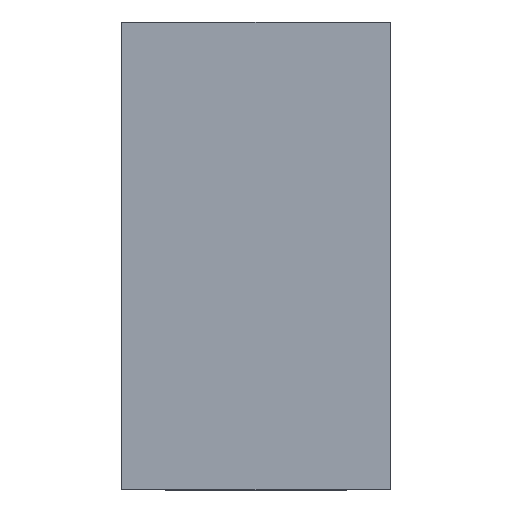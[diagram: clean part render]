
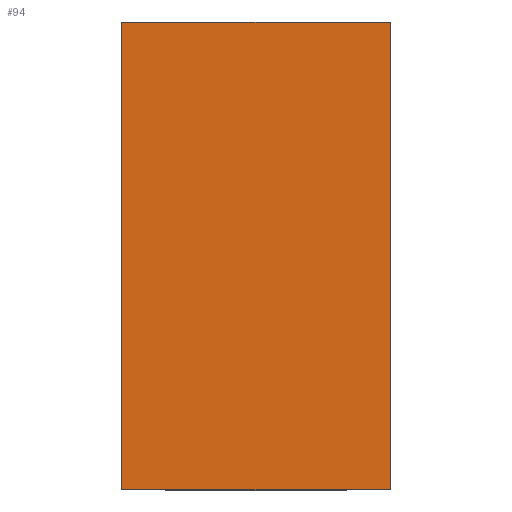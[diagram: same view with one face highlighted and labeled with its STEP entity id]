
A CAD part, top view. The second image highlights one B-rep face of the part: STEP entity #94.
In plain terms, the highlighted planar face has unit normal (0, 0, 1).
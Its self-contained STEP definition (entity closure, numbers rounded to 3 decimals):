
#55=CARTESIAN_POINT('',(0.,634.3,27.85));
#56=DIRECTION('',(0.,0.,1.));
#57=DIRECTION('',(1.,0.,0.));
#58=AXIS2_PLACEMENT_3D('',#55,#56,#57);
#59=PLANE('',#58);
#60=CARTESIAN_POINT('',(7.03,609.8,27.85));
#61=VERTEX_POINT('',#60);
#62=CARTESIAN_POINT('',(-7.03,609.8,27.85));
#63=VERTEX_POINT('',#62);
#64=CARTESIAN_POINT('',(7.03,609.8,27.85));
#65=DIRECTION('',(-1.,-0.,0.));
#66=VECTOR('',#65,14.061);
#67=LINE('',#64,#66);
#68=EDGE_CURVE('',#61,#63,#67,.T.);
#69=ORIENTED_EDGE('',*,*,#68,.F.);
#70=CARTESIAN_POINT('',(7.03,634.3,27.85));
#71=VERTEX_POINT('',#70);
#72=CARTESIAN_POINT('',(7.03,634.3,27.85));
#73=DIRECTION('',(-0.,-1.,-0.));
#74=VECTOR('',#73,24.5);
#75=LINE('',#72,#74);
#76=EDGE_CURVE('',#71,#61,#75,.T.);
#77=ORIENTED_EDGE('',*,*,#76,.F.);
#78=CARTESIAN_POINT('',(-7.03,634.3,27.85));
#79=VERTEX_POINT('',#78);
#80=CARTESIAN_POINT('',(7.03,634.3,27.85));
#81=DIRECTION('',(-1.,-0.,0.));
#82=VECTOR('',#81,14.061);
#83=LINE('',#80,#82);
#84=EDGE_CURVE('',#71,#79,#83,.T.);
#85=ORIENTED_EDGE('',*,*,#84,.T.);
#86=CARTESIAN_POINT('',(-7.03,634.3,27.85));
#87=DIRECTION('',(-0.,-1.,-0.));
#88=VECTOR('',#87,24.5);
#89=LINE('',#86,#88);
#90=EDGE_CURVE('',#79,#63,#89,.T.);
#91=ORIENTED_EDGE('',*,*,#90,.T.);
#92=EDGE_LOOP('',(#69,#77,#85,#91));
#93=FACE_BOUND('',#92,.T.);
#94=ADVANCED_FACE('',(#93),#59,.T.);
